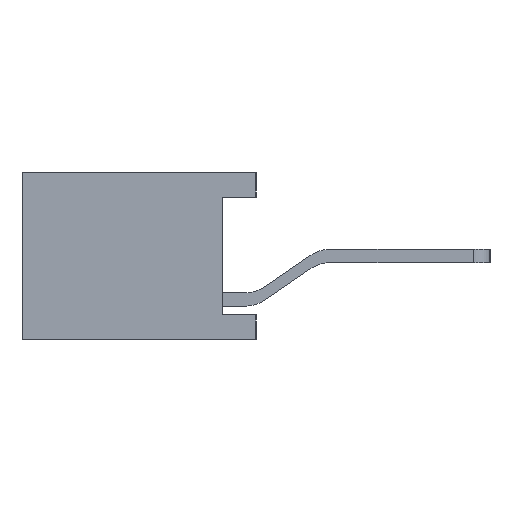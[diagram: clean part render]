
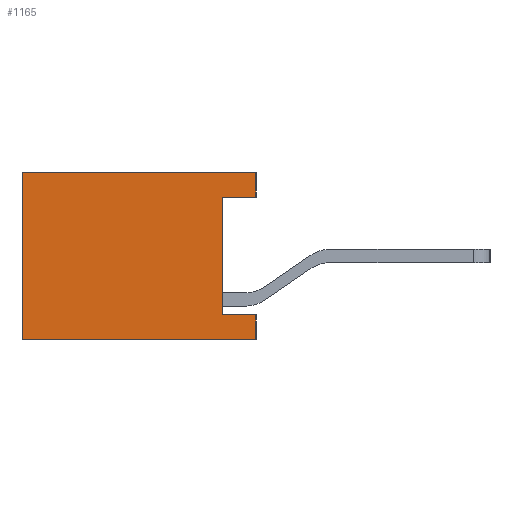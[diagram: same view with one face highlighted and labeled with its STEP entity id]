
A CAD part, left-side view. The second image highlights one B-rep face of the part: STEP entity #1165.
In plain terms, the highlighted planar face has unit normal (-1, 0, 0).
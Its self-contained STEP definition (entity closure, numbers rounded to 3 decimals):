
#562=PLANE('',#12591);
#1165=ADVANCED_FACE('',(#1886),#562,.T.);
#1886=FACE_OUTER_BOUND('',#2540,.T.);
#2540=EDGE_LOOP('',(#8669,#8670,#8671,#8672,#8673,#8674,#8675,#8676));
#2606=LINE('',#15854,#4052);
#2755=LINE('',#16152,#4201);
#2757=LINE('',#16156,#4203);
#2759=LINE('',#16160,#4205);
#2768=LINE('',#16177,#4214);
#2861=LINE('',#16362,#4307);
#2866=LINE('',#16373,#4312);
#2868=LINE('',#16377,#4314);
#4052=VECTOR('',#12719,1.);
#4201=VECTOR('',#12874,1.);
#4203=VECTOR('',#12878,1.);
#4205=VECTOR('',#12882,1.);
#4214=VECTOR('',#12901,1.);
#4307=VECTOR('',#12996,1.);
#4312=VECTOR('',#13013,1.);
#4314=VECTOR('',#13017,1.);
#8669=ORIENTED_EDGE('',*,*,#9932,.F.);
#8670=ORIENTED_EDGE('',*,*,#10081,.T.);
#8671=ORIENTED_EDGE('',*,*,#10083,.F.);
#8672=ORIENTED_EDGE('',*,*,#10085,.T.);
#8673=ORIENTED_EDGE('',*,*,#10094,.F.);
#8674=ORIENTED_EDGE('',*,*,#10187,.F.);
#8675=ORIENTED_EDGE('',*,*,#10194,.T.);
#8676=ORIENTED_EDGE('',*,*,#10192,.F.);
#8847=VERTEX_POINT('',#15853);
#8848=VERTEX_POINT('',#15855);
#8993=VERTEX_POINT('',#16151);
#8994=VERTEX_POINT('',#16155);
#8995=VERTEX_POINT('',#16159);
#8998=VERTEX_POINT('',#16176);
#9089=VERTEX_POINT('',#16361);
#9090=VERTEX_POINT('',#16374);
#9932=EDGE_CURVE('',#8847,#8848,#2606,.T.);
#10081=EDGE_CURVE('',#8847,#8993,#2755,.T.);
#10083=EDGE_CURVE('',#8994,#8993,#2757,.T.);
#10085=EDGE_CURVE('',#8994,#8995,#2759,.T.);
#10094=EDGE_CURVE('',#8998,#8995,#2768,.T.);
#10187=EDGE_CURVE('',#9089,#8998,#2861,.T.);
#10192=EDGE_CURVE('',#8848,#9090,#2866,.T.);
#10194=EDGE_CURVE('',#9089,#9090,#2868,.T.);
#12591=AXIS2_PLACEMENT_3D('',#18984,#15626,#15627);
#12719=DIRECTION('',(0.,0.,-1.));
#12874=DIRECTION('',(0.,-1.,0.));
#12878=DIRECTION('',(0.,0.,-1.));
#12882=DIRECTION('',(0.,1.,0.));
#12901=DIRECTION('',(0.,0.,1.));
#12996=DIRECTION('',(0.,1.,0.));
#13013=DIRECTION('',(0.,-1.,0.));
#13017=DIRECTION('',(0.,0.,1.));
#15626=DIRECTION('',(-1.,0.,0.));
#15627=DIRECTION('',(0.,0.,1.));
#15853=CARTESIAN_POINT('',(-49.33,0.5,-0.35));
#15854=CARTESIAN_POINT('',(-49.33,0.5,2.54));
#15855=CARTESIAN_POINT('',(-49.33,0.5,-2.11));
#16151=CARTESIAN_POINT('',(-49.33,0.,-0.35));
#16152=CARTESIAN_POINT('',(-49.33,0.,-0.35));
#16155=CARTESIAN_POINT('',(-49.33,0.,0.02));
#16156=CARTESIAN_POINT('',(-49.33,0.,-2.5));
#16159=CARTESIAN_POINT('',(-49.33,3.5,0.02));
#16160=CARTESIAN_POINT('',(-49.33,0.,0.02));
#16176=CARTESIAN_POINT('',(-49.33,3.5,-2.48));
#16177=CARTESIAN_POINT('',(-49.33,3.5,-2.5));
#16361=CARTESIAN_POINT('',(-49.33,0.,-2.48));
#16362=CARTESIAN_POINT('',(-49.33,0.,-2.48));
#16373=CARTESIAN_POINT('',(-49.33,0.,-2.11));
#16374=CARTESIAN_POINT('',(-49.33,0.,-2.11));
#16377=CARTESIAN_POINT('',(-49.33,0.,0.04));
#18984=CARTESIAN_POINT('',(-49.33,0.,2.54));
